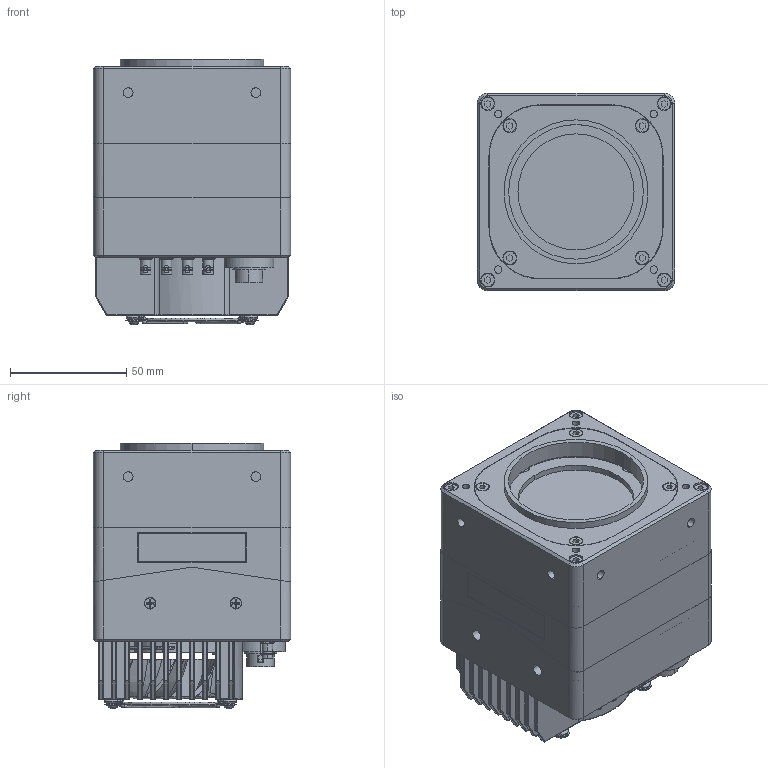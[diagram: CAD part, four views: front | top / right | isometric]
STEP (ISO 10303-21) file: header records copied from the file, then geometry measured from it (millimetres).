
FILE_DESCRIPTION (( 'STEP AP203' ), '1' );
FILE_NAME ('mars_cxp_85_85_user_s1.0.0.STEP', '2023-08-24T09:30:49', ( '' ), ( '' ), 'SwSTEP 2.0', 'SolidWorks 2016', '' );
FILE_SCHEMA (( 'CONFIG_CONTROL_DESIGN' ));
Products named in the file (1): mars_cxp_85_85_user_s1.0.0
Bounding box: 85 x 85 x 114.58 mm (x, y, z)
Volume: 756649.3 mm3; surface area: 156907 mm2
Topology: 44 solids, 44 shells, 2854 faces, 7504 edges, 4903 vertices
Faces by surface type: plane 1382, cylinder 945, bspline 386, cone 113, torus 28
Entity records: 164028 total; most frequent: CARTESIAN_POINT 97043, ORIENTED_EDGE 14936, DIRECTION 12227, EDGE_CURVE 7468, VERTEX_POINT 4899, AXIS2_PLACEMENT_3D 4093, LINE 4041, VECTOR 4041
